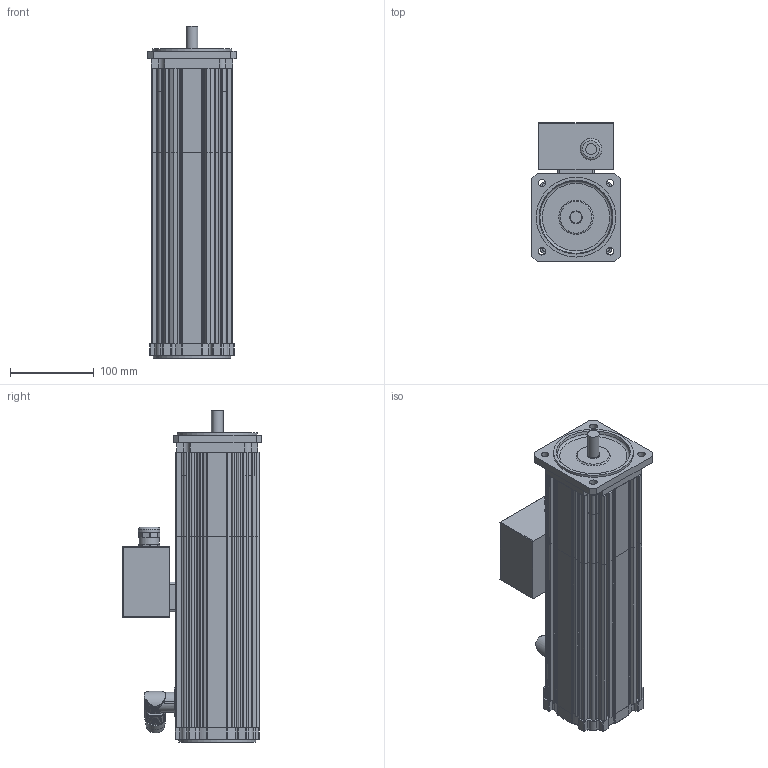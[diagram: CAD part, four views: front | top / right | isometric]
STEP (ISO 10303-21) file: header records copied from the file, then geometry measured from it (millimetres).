
FILE_DESCRIPTION(/* description */ (''),/* implementation_level */ '2;1');
FILE_NAME(/* name */ 'KSA4412_MC_Ix',/* time_stamp */ '2009-02-26T14:07:17+01:00',/* author */ (''),/* organization */ (''),/* preprocessor_version */ 'ST-DEVELOPER v8',/* originating_system */ 'UNIGRAPHICS SOLUTIONS - UNIGRAPHICS 18.0',/* authorisation */ '');
FILE_SCHEMA (('AUTOMOTIVE_DESIGN { 1 2 10303 214 0 1 1 1 }'));
Length unit declared in the file: millimetre
Products named in the file (7): 0280391350_0; Lagersch4AS_0; Winkelflanschdose_0; Lagersch4BS_0; 089105X_0; Klemmenkasten_0; KSA444_MC_Ix_0
Assembly tree (6 placements, depth 3):
  KSA444_MC_Ix_0
    089105X_0
    Lagersch4BS_0
    Klemmenkasten_0
      0280391350_0
    Winkelflanschdose_0
    Lagersch4AS_0
Bounding box: 105 x 165.35 x 396 mm (x, y, z)
Volume: 1650438.5 mm3; surface area: 462086.7 mm2
Topology: 7 solids, 7 shells, 748 faces, 2115 edges, 1399 vertices
Faces by surface type: cylinder 424, plane 290, torus 12, cone 10, bspline 8, sphere 4
Full cylindrical faces by diameter (mm): 9 x4, 13 x1, 14 x1, 15 x1, 16 x1, 18 x1, 20 x2, 21 x1, 21.5 x1, 23 x2, 24 x1, 26 x1, 89.6 x2, 91 x1, 95 x1
Entity records: 24949 total; most frequent: CARTESIAN_POINT 5174, DIRECTION 4142, ORIENTED_EDGE 4138, EDGE_CURVE 2069, AXIS2_PLACEMENT_3D 1522, VERTEX_POINT 1388, LINE 1098, VECTOR 1098
